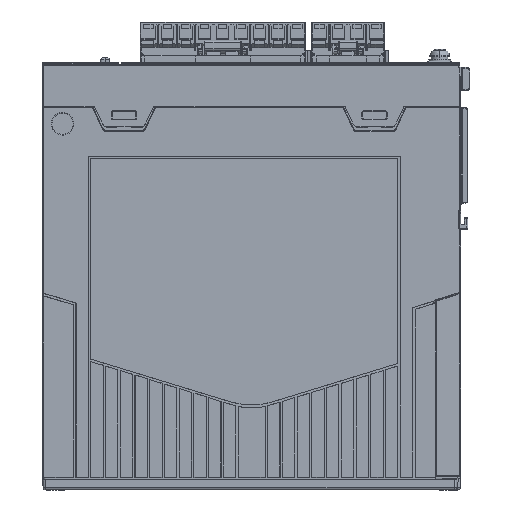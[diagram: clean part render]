
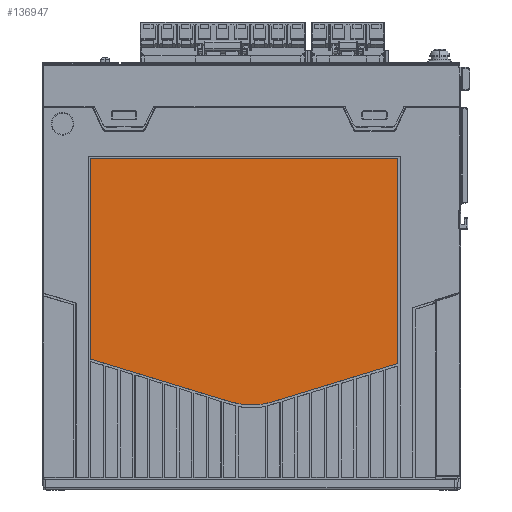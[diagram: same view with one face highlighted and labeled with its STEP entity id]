
A CAD part, left-side view. The second image highlights one B-rep face of the part: STEP entity #136947.
In plain terms, the highlighted planar face has unit normal (-1, 0, 0).
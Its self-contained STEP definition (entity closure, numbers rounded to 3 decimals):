
#37648=CARTESIAN_POINT('',(-30.9,15.499,
-21.25));
#37650=CARTESIAN_POINT('',(-30.9,140.5,
-21.25));
#37666=CARTESIAN_POINT('',(-30.9,15.5,
-104.511));
#37683=DIRECTION('',(0.,0.,1.));
#37684=VECTOR('',#37683,81.426);
#37685=CARTESIAN_POINT('',(-30.9,140.5,
-102.676));
#37686=LINE('',#37685,#37684);
#37687=DIRECTION('',(0.,-1.,0.));
#37688=VECTOR('',#37687,125.001);
#37689=CARTESIAN_POINT('',(-30.9,140.5,
-21.25));
#37690=LINE('',#37689,#37688);
#37691=DIRECTION('',(0.,0.,-1.));
#37692=VECTOR('',#37691,83.261);
#37693=CARTESIAN_POINT('',(-30.9,15.499,
-21.25));
#37694=LINE('',#37693,#37692);
#37695=DIRECTION('',(0.,0.956,-0.292));
#37696=VECTOR('',#37695,53.352);
#37697=CARTESIAN_POINT('',(-30.9,15.5,
-104.511));
#37698=LINE('',#37697,#37696);
#37699=CARTESIAN_POINT('',(-30.9,75.,-92.376));
#37700=DIRECTION('',(1.,0.,0.));
#37701=DIRECTION('',(0.,-0.292,-0.956));
#37702=AXIS2_PLACEMENT_3D('',#37699,#37700,#37701);
#37704=CARTESIAN_POINT('',(-30.9,75.,-92.376));
#37705=DIRECTION('',(1.,0.,0.));
#37706=DIRECTION('',(0.,0.,-1.));
#37707=AXIS2_PLACEMENT_3D('',#37704,#37705,#37706);
#37709=DIRECTION('',(0.,0.956,0.292));
#37710=VECTOR('',#37709,59.627);
#37711=CARTESIAN_POINT('',(-30.9,83.479,
-120.109));
#37712=LINE('',#37711,#37710);
#45177=VERTEX_POINT('',#37650);
#45178=CARTESIAN_POINT('',(-30.9,140.5,
-102.676));
#45179=VERTEX_POINT('',#45178);
#45180=VERTEX_POINT('',#37648);
#45181=VERTEX_POINT('',#37666);
#45182=CARTESIAN_POINT('',(-30.9,66.521,
-120.109));
#45183=VERTEX_POINT('',#45182);
#45184=CARTESIAN_POINT('',(-30.9,83.479,
-120.109));
#45185=VERTEX_POINT('',#45184);
#45186=CARTESIAN_POINT('',(-30.9,75.,-121.376));
#45187=VERTEX_POINT('',#45186);
#136933=CARTESIAN_POINT('',(-30.9,78.8,0.));
#136934=DIRECTION('',(-1.,0.,0.));
#136935=DIRECTION('',(0.,0.,1.));
#136936=AXIS2_PLACEMENT_3D('',#136933,#136934,#136935);
#136937=PLANE('',#136936);
#136938=ORIENTED_EDGE('',*,*,#136812,.T.);
#136939=ORIENTED_EDGE('',*,*,#136834,.T.);
#136940=ORIENTED_EDGE('',*,*,#136855,.T.);
#136941=ORIENTED_EDGE('',*,*,#136876,.T.);
#136942=ORIENTED_EDGE('',*,*,#136900,.T.);
#136943=ORIENTED_EDGE('',*,*,#136898,.T.);
#136944=ORIENTED_EDGE('',*,*,#136920,.T.);
#136945=EDGE_LOOP('',(#136938,#136939,#136940,#136941,#136942,#136943,#136944));
#136946=FACE_OUTER_BOUND('',#136945,.F.);
#37703=CIRCLE('',#37702,29.);
#37708=CIRCLE('',#37707,29.);
#136812=EDGE_CURVE('',#45179,#45177,#37686,.T.);
#136834=EDGE_CURVE('',#45177,#45180,#37690,.T.);
#136855=EDGE_CURVE('',#45180,#45181,#37694,.T.);
#136876=EDGE_CURVE('',#45181,#45183,#37698,.T.);
#136898=EDGE_CURVE('',#45187,#45185,#37708,.T.);
#136900=EDGE_CURVE('',#45183,#45187,#37703,.T.);
#136920=EDGE_CURVE('',#45185,#45179,#37712,.T.);
#136947=ADVANCED_FACE('',(#136946),#136937,.T.);
